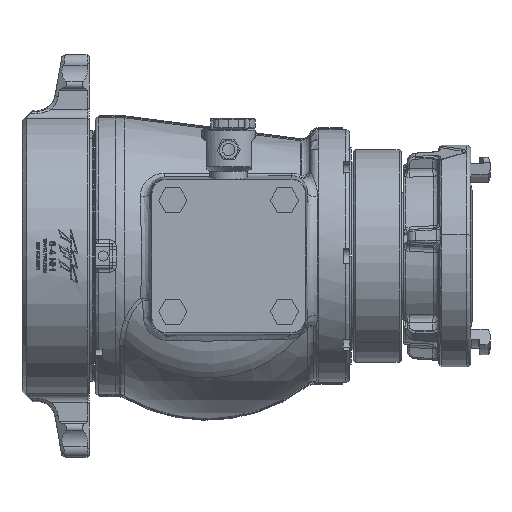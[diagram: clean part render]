
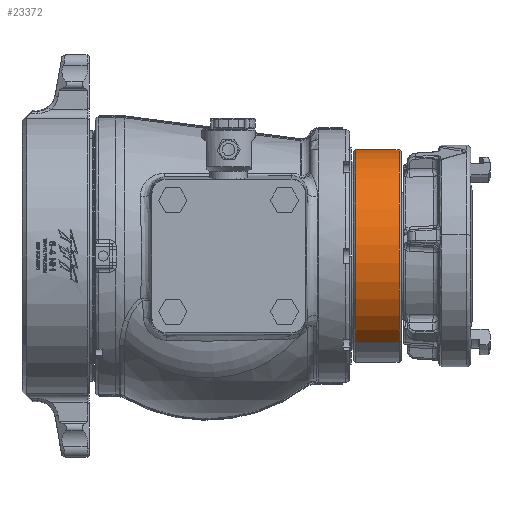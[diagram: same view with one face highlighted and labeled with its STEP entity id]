
A CAD part, front view. The second image highlights one B-rep face of the part: STEP entity #23372.
In plain terms, the highlighted cylindrical face has radius 74.93 mm (diameter 149.86 mm), a partial arc.
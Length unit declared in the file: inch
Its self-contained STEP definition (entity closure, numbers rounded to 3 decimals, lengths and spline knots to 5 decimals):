
#1252 = EDGE_CURVE ( 'NONE', #9950, #9926, #84994, .T. ) ;
#1253 = EDGE_CURVE ( 'NONE', #9926, #9920, #84986, .T. ) ;
#1254 = EDGE_CURVE ( 'NONE', #9921, #9920, #84997, .T. ) ;
#1255 = EDGE_CURVE ( 'NONE', #9950, #9921, #84996, .T. ) ;
#4755 = CARTESIAN_POINT ( 'NONE',  ( 4.30985, -2.17616, -2.3866 ) ) ;
#4756 = CARTESIAN_POINT ( 'NONE',  ( 4.30985, 1.29178, 2.3866 ) ) ;
#4761 = CARTESIAN_POINT ( 'NONE',  ( 3.10485, -2.17616, -2.3866 ) ) ;
#4785 = CARTESIAN_POINT ( 'NONE',  ( 3.10485, 1.29178, 2.3866 ) ) ;
#5078 = FACE_OUTER_BOUND ( 'NONE', #60871, .T. ) ;
#5091 = CYLINDRICAL_SURFACE ( 'NONE', #85999, 2.95 ) ;
#9920 = VERTEX_POINT ( 'NONE', #4755 ) ;
#9921 = VERTEX_POINT ( 'NONE', #4756 ) ;
#9926 = VERTEX_POINT ( 'NONE', #4761 ) ;
#9950 = VERTEX_POINT ( 'NONE', #4785 ) ;
#23372 = ADVANCED_FACE ( 'NONE', ( #5078 ), #5091, .T. ) ;
#52238 = DIRECTION ( 'NONE',  ( 1., 0., 0. ) ) ;
#52257 = DIRECTION ( 'NONE',  ( 1., 0., 0. ) ) ;
#52264 = CARTESIAN_POINT ( 'NONE',  ( 5.41235, -2.17616, -2.3866 ) ) ;
#52267 = CARTESIAN_POINT ( 'NONE',  ( 3.10485, -0.44219, 0. ) ) ;
#52271 = DIRECTION ( 'NONE',  ( 1., 0., 0. ) ) ;
#52274 = DIRECTION ( 'NONE',  ( 0., 0.588, 0.809 ) ) ;
#52286 = CARTESIAN_POINT ( 'NONE',  ( 5.41235, 1.29178, 2.3866 ) ) ;
#52290 = CARTESIAN_POINT ( 'NONE',  ( 4.30985, -0.44219, 0. ) ) ;
#52293 = DIRECTION ( 'NONE',  ( 1., 0., 0. ) ) ;
#52297 = DIRECTION ( 'NONE',  ( 0., 0.588, 0.809 ) ) ;
#52612 = ORIENTED_EDGE ( 'NONE', *, *, #1252, .T. ) ;
#52619 = ORIENTED_EDGE ( 'NONE', *, *, #1253, .T. ) ;
#52625 = ORIENTED_EDGE ( 'NONE', *, *, #1254, .F. ) ;
#52634 = ORIENTED_EDGE ( 'NONE', *, *, #1255, .F. ) ;
#60871 = EDGE_LOOP ( 'NONE', ( #52612, #52619, #52625, #52634 ) ) ;
#77534 = DIRECTION ( 'NONE',  ( 0., 0.588, 0.809 ) ) ;
#77538 = DIRECTION ( 'NONE',  ( 1., 0., 0. ) ) ;
#77542 = CARTESIAN_POINT ( 'NONE',  ( 5.41235, -0.44219, 0. ) ) ;
#84986 = LINE ( 'NONE', #52264, #84999 ) ;
#84994 = CIRCLE ( 'NONE', #85860, 2.95 ) ;
#84996 = LINE ( 'NONE', #52286, #85004 ) ;
#84997 = CIRCLE ( 'NONE', #85861, 2.95 ) ;
#84999 = VECTOR ( 'NONE', #52257, 39.37008 ) ;
#85004 = VECTOR ( 'NONE', #52238, 39.37008 ) ;
#85860 = AXIS2_PLACEMENT_3D ( 'NONE', #52267, #52271, #52274 ) ;
#85861 = AXIS2_PLACEMENT_3D ( 'NONE', #52290, #52293, #52297 ) ;
#85999 = AXIS2_PLACEMENT_3D ( 'NONE', #77542, #77538, #77534 ) ;
